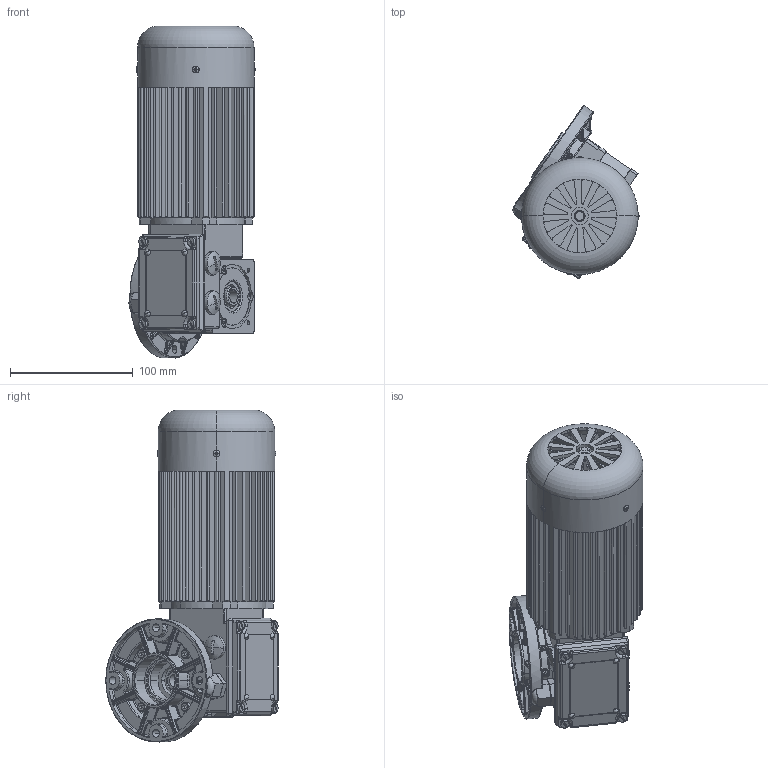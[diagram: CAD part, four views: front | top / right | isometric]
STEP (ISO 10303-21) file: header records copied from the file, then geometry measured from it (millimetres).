
FILE_DESCRIPTION((''),'2;1');
FILE_NAME('C:\Documents and Settings\marco\Desktop\DATI\DATI MARCO\Disegni inventor\STEP\MC\MC_P3-B5.stp','2003-08-26T16:47:51',('Administrator'),(''),'Autodesk Inventor 7','Autodesk Inventor 7','');
FILE_SCHEMA(('AUTOMOTIVE_DESIGN { 1 0 10303 214 1 1 1 1 }'));
Length unit declared in the file: millimetre
Products named in the file (1): MC_P3-B5
Bounding box: 102.89 x 140.69 x 270.77 mm (x, y, z)
Volume: 684735.2 mm3; surface area: 348574.9 mm2
Topology: 2 solids, 32 shells, 4327 faces, 11850 edges, 7328 vertices
Faces by surface type: plane 1685, cylinder 1380, bspline 739, cone 313, torus 164, sphere 46
Entity records: 162421 total; most frequent: CARTESIAN_POINT 55302, ORIENTED_EDGE 23204, DIRECTION 22654, EDGE_CURVE 11602, AXIS2_PLACEMENT_3D 8692, VERTEX_POINT 7328, VECTOR 5270, LINE 5270
